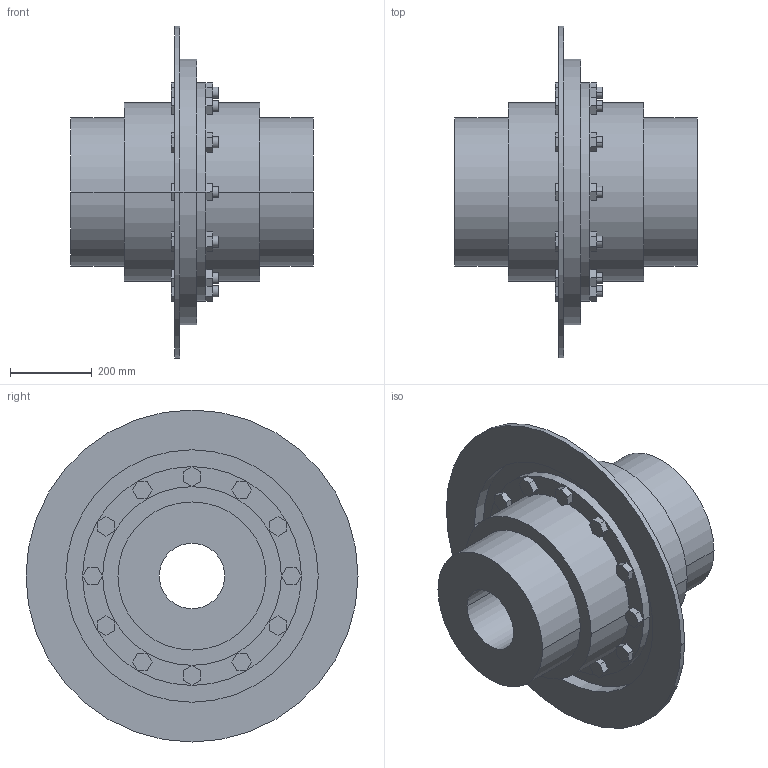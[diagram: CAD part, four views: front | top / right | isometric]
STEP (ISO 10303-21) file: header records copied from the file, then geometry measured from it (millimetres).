
FILE_DESCRIPTION((''),'2;1');
FILE_NAME('A19127000-0_ASM','2018-11-13T',('AB_Roschiwal'),('RENK AG'),'PRO/ENGINEER BY PARAMETRIC TECHNOLOGY CORPORATION, 2015440','PRO/ENGINEER BY PARAMETRIC TECHNOLOGY CORPORATION, 2015440','');
FILE_SCHEMA(('CONFIG_CONTROL_DESIGN'));
Length unit declared in the file: millimetre
Products named in the file (4): LBKT225_GEHAEUSE; LBKT225_NABE; LBKT225_BREMSSCHEIBE; A19127000-0_ASM
Assembly tree (4 placements, depth 2):
  A19127000-0_ASM
    LBKT225_GEHAEUSE
    LBKT225_NABE  x2
    LBKT225_BREMSSCHEIBE
Bounding box: 593 x 812 x 812 mm (x, y, z)
Volume: 70047055.6 mm3; surface area: 3668243.4 mm2
Topology: 4 solids, 4 shells, 294 faces, 708 edges, 472 vertices
Faces by surface type: plane 202, cylinder 92
Entity records: 8412 total; most frequent: DIRECTION 1432, CARTESIAN_POINT 1430, ORIENTED_EDGE 1368, EDGE_CURVE 684, VECTOR 516, LINE 516, AXIS2_PLACEMENT_3D 458, VERTEX_POINT 456
